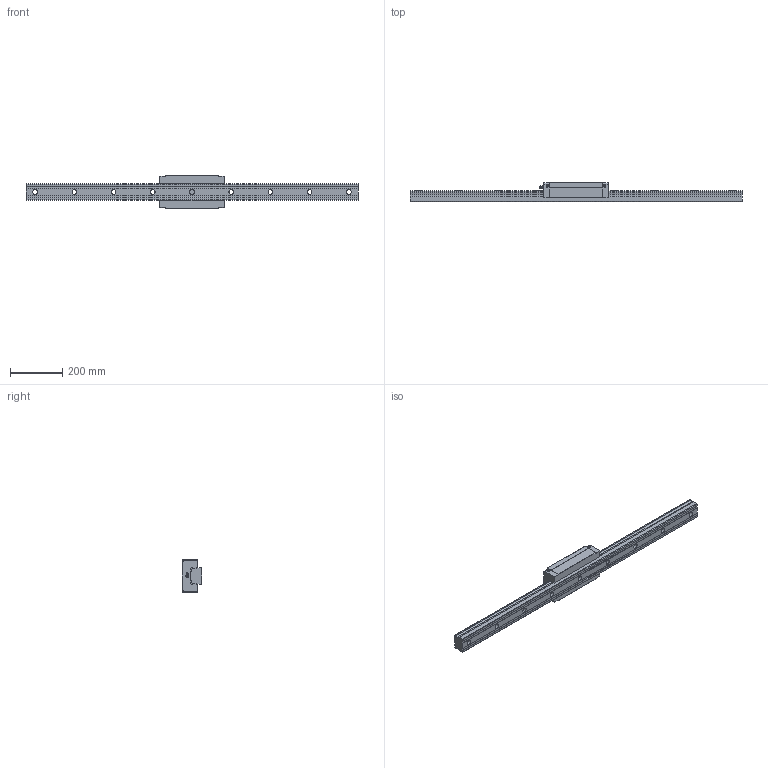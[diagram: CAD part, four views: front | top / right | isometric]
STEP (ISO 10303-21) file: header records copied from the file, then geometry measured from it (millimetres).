
FILE_DESCRIPTION(/* description */ ('STEP AP203'),/* implementation_level */ '2;1');
FILE_NAME(/* name */ 'SVR65LR1SS-1270L_G35_0_B-PT18_512_0_0_0_1',/* time_stamp */ '2024-05-17T07:07:44+02:00',/* author */ ('License CC BY-ND 4.0'),/* organization */ ('CADENAS'),/* preprocessor_version */ 'ST-DEVELOPER v19.3',/* originating_system */ 'PARTsolutions',/* authorisation */ ' ');
FILE_SCHEMA (('CONFIG_CONTROL_DESIGN'));
Length unit declared in the file: millimetre
Products named in the file (4): SVR65LR1SS-1270L_G35_0_B-PT18_512_0_0_0_1; SVR 65LR127035 R Track; SVR 65LR1SSB-PT1/81 Slide; B-PT1/8_grease_nipple_joint1_SVR
Assembly tree (3 placements, depth 2):
  SVR65LR1SS-1270L_G35_0_B-PT18_512_0_0_0_1
    SVR 65LR127035 R Track
    SVR 65LR1SSB-PT1/81 Slide
    B-PT1/8_grease_nipple_joint1_SVR
Bounding box: 1270 x 75 x 126 mm (x, y, z)
Volume: 4431949 mm3; surface area: 433279.5 mm2
Topology: 3 solids, 3 shells, 192 faces, 498 edges, 327 vertices
Faces by surface type: plane 102, cylinder 61, cone 24, torus 3, sphere 2
Full cylindrical faces by diameter (mm): 8.2 x4, 9.6 x1, 13.835 x6, 18 x9, 26 x9
Entity records: 5616 total; most frequent: CARTESIAN_POINT 1053, DIRECTION 930, ORIENTED_EDGE 834, EDGE_CURVE 417, AXIS2_PLACEMENT_3D 344, VERTEX_POINT 312, FACE_BOUND 291, EDGE_LOOP 283
